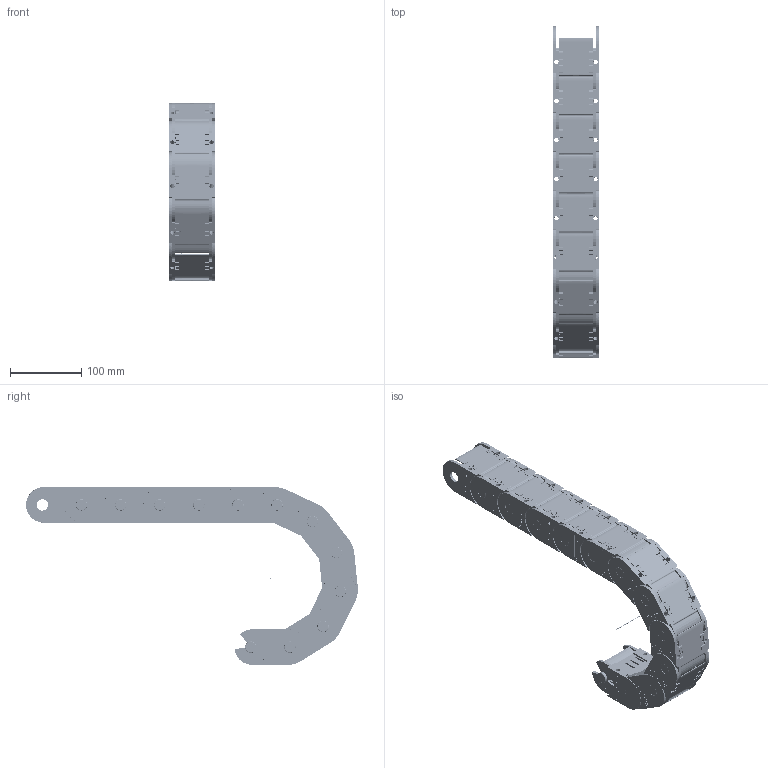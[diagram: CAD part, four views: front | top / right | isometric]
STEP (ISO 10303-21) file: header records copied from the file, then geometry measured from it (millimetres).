
FILE_DESCRIPTION((''),'2;1');
FILE_NAME('C:\Uebbing\PARAMETERKETTEN\KOLIBRI\Kol_50_065_5\Kol 50_065_5_R75.stp','2012-03-05T14:31:05',('Uebbing'),(''),'Autodesk Inventor 10','Autodesk Inventor 10','');
FILE_SCHEMA(('AUTOMOTIVE_DESIGN { 1 0 10303 214 1 1 1 1 }'));
Length unit declared in the file: millimetre
Products named in the file (6): KOLIBRI 50_065_5_PARAMETRISCH; Achse; Kol 50_065_5; Kol_50_065_5_Klappdeckel; Kol_50_065_5; Stecksteg PZG 50
Assembly tree (16 placements, depth 3):
  KOLIBRI 50_065_5_PARAMETRISCH
    Achse
    Kol 50_065_5  x12
      Kol_50_065_5_Klappdeckel
      Kol_50_065_5
      Stecksteg PZG 50
Bounding box: 65 x 466.74 x 250 mm (x, y, z)
Volume: 671007.6 mm3; surface area: 478068.7 mm2
Topology: 37 solids, 37 shells, 8151 faces, 22144 edges, 14307 vertices
Faces by surface type: plane 4190, cylinder 1969, bspline 1776, sphere 120, cone 72, torus 24
Full cylindrical faces by diameter (mm): 1 x1, 2.011 x12, 3.531 x12, 4 x72, 6 x12, 8 x24, 16 x24
Entity records: 22430 total; most frequent: CARTESIAN_POINT 5323, ORIENTED_EDGE 3608, DIRECTION 3349, EDGE_CURVE 1804, VECTOR 1331, LINE 1331, VERTEX_POINT 1184, AXIS2_PLACEMENT_3D 1009
